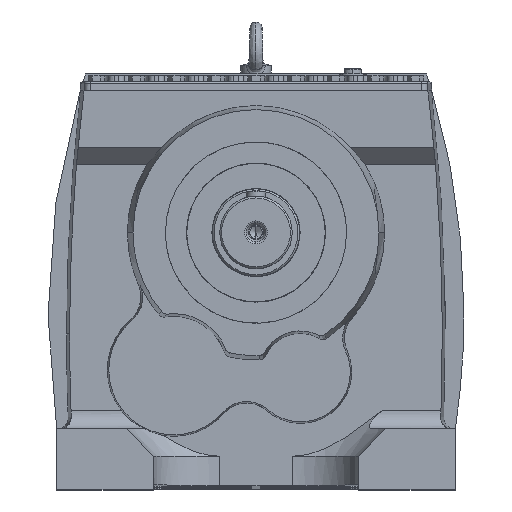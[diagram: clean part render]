
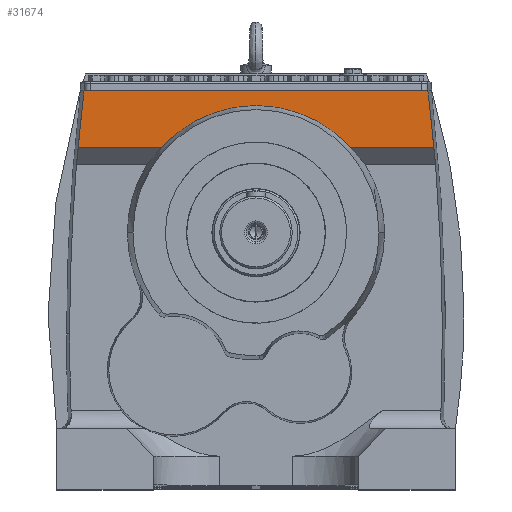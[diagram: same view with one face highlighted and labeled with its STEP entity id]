
A CAD part, top view. The second image highlights one B-rep face of the part: STEP entity #31674.
In plain terms, the highlighted planar face has unit normal (0, 0, 1).
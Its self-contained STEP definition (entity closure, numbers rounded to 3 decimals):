
#13283 = EDGE_CURVE ( 'NONE', #106131, #106100, #52392, .T. ) ;
#13638 = EDGE_CURVE ( 'NONE', #106100, #40065, #125486, .T. ) ;
#13662 = EDGE_CURVE ( 'NONE', #40089, #106131, #125569, .T. ) ;
#16967 = ORIENTED_EDGE ( 'NONE', *, *, #110916, .T. ) ;
#16991 = ORIENTED_EDGE ( 'NONE', *, *, #13638, .T. ) ;
#17053 = ORIENTED_EDGE ( 'NONE', *, *, #110894, .F. ) ;
#17105 = ORIENTED_EDGE ( 'NONE', *, *, #13662, .T. ) ;
#17159 = ORIENTED_EDGE ( 'NONE', *, *, #13283, .T. ) ;
#17318 = ORIENTED_EDGE ( 'NONE', *, *, #106307, .T. ) ;
#31674 = ADVANCED_FACE ( 'NONE', ( #125260 ), #38766, .T. ) ;
#38740 = DIRECTION ( 'NONE',  ( 0., 0., 1. ) ) ;
#38753 = DIRECTION ( 'NONE',  ( 1., 0., 0. ) ) ;
#38766 = PLANE ( 'NONE',  #98599 ) ;
#38769 = CARTESIAN_POINT ( 'NONE',  ( -3186.324, -167.302, 258.5 ) ) ;
#40065 = VERTEX_POINT ( 'NONE', #131888 ) ;
#40089 = VERTEX_POINT ( 'NONE', #131891 ) ;
#40261 = VERTEX_POINT ( 'NONE', #136352 ) ;
#40280 = VERTEX_POINT ( 'NONE', #136294 ) ;
#40621 = DIRECTION ( 'NONE',  ( 0., 0., -1. ) ) ;
#40645 = DIRECTION ( 'NONE',  ( -1., 0., 0. ) ) ;
#40665 = CARTESIAN_POINT ( 'NONE',  ( 0., 0., 258.5 ) ) ;
#47827 = DIRECTION ( 'NONE',  ( 0., 0., 1. ) ) ;
#47867 = DIRECTION ( 'NONE',  ( -1., 0., 0. ) ) ;
#47893 = CARTESIAN_POINT ( 'NONE',  ( -3186.324, -167.302, 258.5 ) ) ;
#49158 = CARTESIAN_POINT ( 'NONE',  ( 156.607, 140.733, 258.5 ) ) ;
#49178 = CARTESIAN_POINT ( 'NONE',  ( -156.607, 140.733, 258.5 ) ) ;
#52392 = CIRCLE ( 'NONE', #97039, 210.55 ) ;
#62894 = DIRECTION ( 'NONE',  ( 0., 0., -1. ) ) ;
#62932 = DIRECTION ( 'NONE',  ( -1., 0., 0. ) ) ;
#62957 = CARTESIAN_POINT ( 'NONE',  ( 3186.324, -167.302, 258.5 ) ) ;
#63099 = CARTESIAN_POINT ( 'NONE',  ( -380.272, 235., 258.5 ) ) ;
#63123 = DIRECTION ( 'NONE',  ( -1., 0., 0. ) ) ;
#69589 = CIRCLE ( 'NONE', #87033, 3494.174 ) ;
#79634 = LINE ( 'NONE', #63099, #79636 ) ;
#79636 = VECTOR ( 'NONE', #63123, 1000. ) ;
#79652 = CIRCLE ( 'NONE', #87984, 3494.174 ) ;
#87033 = AXIS2_PLACEMENT_3D ( 'NONE', #47893, #47827, #47867 ) ;
#87984 = AXIS2_PLACEMENT_3D ( 'NONE', #62957, #62894, #62932 ) ;
#97039 = AXIS2_PLACEMENT_3D ( 'NONE', #40665, #40621, #40645 ) ;
#98599 = AXIS2_PLACEMENT_3D ( 'NONE', #38769, #38740, #38753 ) ;
#106100 = VERTEX_POINT ( 'NONE', #49158 ) ;
#106131 = VERTEX_POINT ( 'NONE', #49178 ) ;
#106307 = EDGE_CURVE ( 'NONE', #40065, #40280, #69589, .T. ) ;
#110894 = EDGE_CURVE ( 'NONE', #40089, #40261, #79652, .T. ) ;
#110916 = EDGE_CURVE ( 'NONE', #40280, #40261, #79634, .T. ) ;
#117245 = CARTESIAN_POINT ( 'NONE',  ( -3186.324, 140.733, 258.5 ) ) ;
#117246 = DIRECTION ( 'NONE',  ( 1., 0., 0. ) ) ;
#117491 = CARTESIAN_POINT ( 'NONE',  ( -3186.324, 140.733, 258.5 ) ) ;
#117634 = DIRECTION ( 'NONE',  ( 1., 0., 0. ) ) ;
#125260 = FACE_OUTER_BOUND ( 'NONE', #130599, .T. ) ;
#125470 = VECTOR ( 'NONE', #117246, 1000. ) ;
#125486 = LINE ( 'NONE', #117245, #125470 ) ;
#125547 = VECTOR ( 'NONE', #117634, 1000. ) ;
#125569 = LINE ( 'NONE', #117491, #125547 ) ;
#130599 = EDGE_LOOP ( 'NONE', ( #16991, #17318, #16967, #17053, #17105, #17159 ) ) ;
#131888 = CARTESIAN_POINT ( 'NONE',  ( 294.246, 140.733, 258.5 ) ) ;
#131891 = CARTESIAN_POINT ( 'NONE',  ( -294.246, 140.733, 258.5 ) ) ;
#136294 = CARTESIAN_POINT ( 'NONE',  ( 284.613, 235., 258.5 ) ) ;
#136352 = CARTESIAN_POINT ( 'NONE',  ( -284.613, 235., 258.5 ) ) ;
